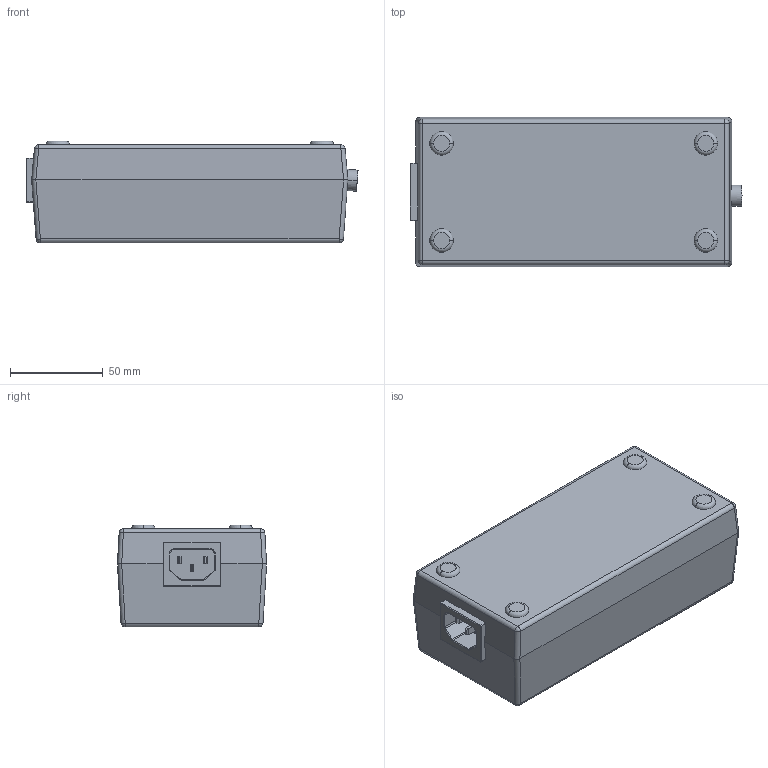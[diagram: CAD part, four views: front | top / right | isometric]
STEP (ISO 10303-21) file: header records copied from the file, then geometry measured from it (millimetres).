
FILE_DESCRIPTION((''),'2;1');
FILE_NAME('CU_POWER_SUPPLY_PS3','2007-08-17T',('jpearson'),(''),'PRO/ENGINEER BY PARAMETRIC TECHNOLOGY CORPORATION, 2006080','PRO/ENGINEER BY PARAMETRIC TECHNOLOGY CORPORATION, 2006080','');
FILE_SCHEMA(('CONFIG_CONTROL_DESIGN'));
Length unit declared in the file: inch
Products named in the file (1): CU_POWER_SUPPLY_PS3
Bounding box: 178.72 x 80.26 x 54.86 mm (x, y, z)
Volume: 694792.3 mm3; surface area: 53066.2 mm2
Topology: 1 solids, 1 shells, 118 faces, 254 edges, 146 vertices
Faces by surface type: plane 54, cylinder 38, torus 14, sphere 12
Entity records: 3213 total; most frequent: CARTESIAN_POINT 584, DIRECTION 570, ORIENTED_EDGE 508, EDGE_CURVE 254, AXIS2_PLACEMENT_3D 209, VECTOR 152, LINE 152, VERTEX_POINT 146
